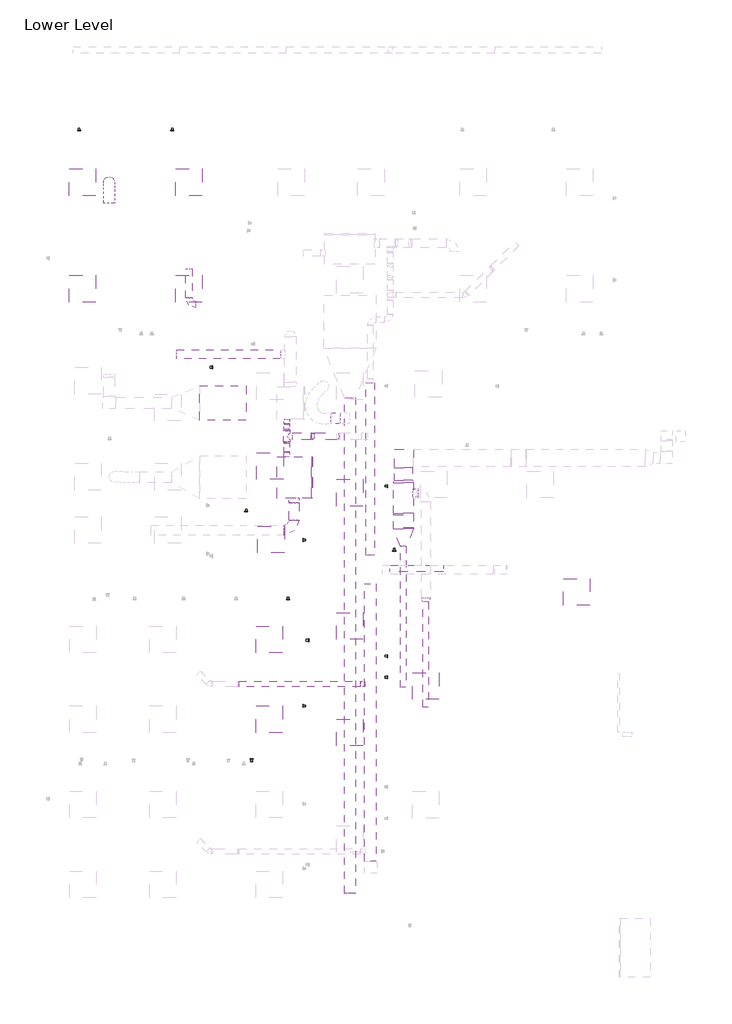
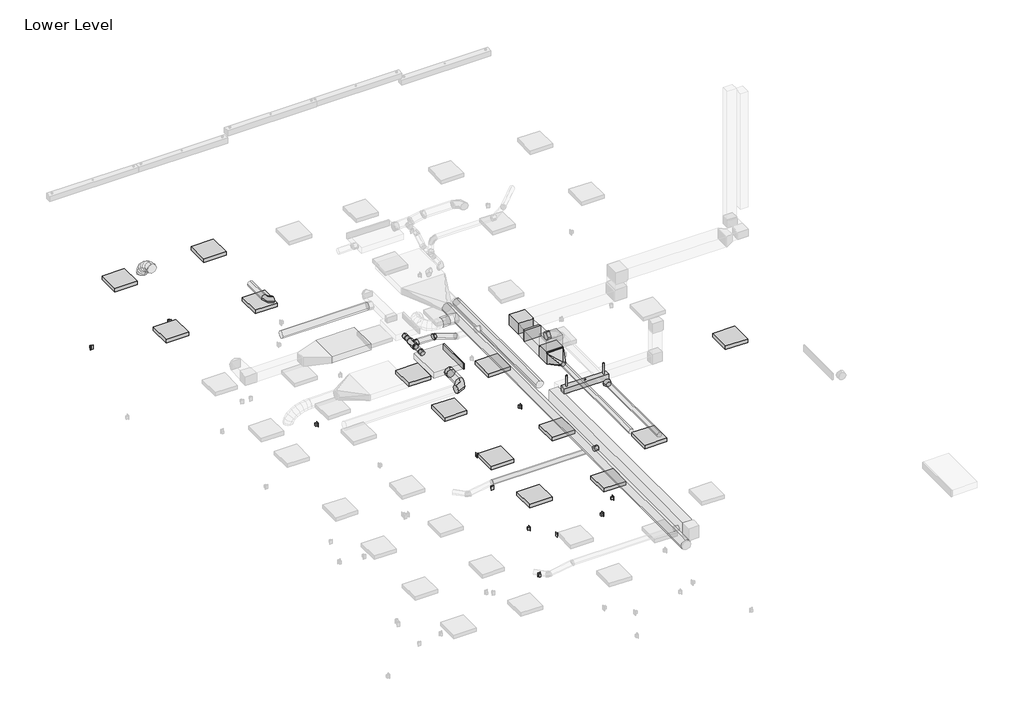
# One storey, part 2 of 4: 20 duct segments, 17 duct fittings, 14 light fixtures, 10 proxies, 5 switching devices.
"""IFC4 building model written with IfcOpenShell, lengths in millimetres."""

from ifc_helpers import new_model, si_unit, point, frame, frame_2d, origin, place, context, project, spatial, polyline, circle_curve, ellipse_curve, trimmed, segment, composite_curve, outline, extrude, transform, mapped, element, save
from ifc_brep_helpers import plane_surface, cylinder_surface, advanced_brep
from components import mechanical_equipment_142123ad, duplex_receptacle_countertop_10251bba, rectangular_elbow_mitered_standard_ae316b88, rectangular_endcap_standard_7f0f3a90, rectangular_tee_standard_c6e92247, rectangular_transition_angle_45_degree_acf68612, rectangular_to_round_transition_angle_45_degree_6a3e0b62, round_elbow_1_d_df495868, round_elbow_1_d_b37ad80b, round_elbow_1_d_f0624a5f, round_takeoff_standard_71c39a53, round_takeoff_standard_1127d77f, round_takeoff_standard_fb854549, round_takeoff_standard_7fe2b2d5, round_tee_standard_f7545f24, round_transition_angle_45_degree_f573c4f8, round_transition_angle_45_degree_d7d10bec, suspended_fluorescent_strip_non_hosted_strip_light_1x4_120v_4ea4ccb3, troffer_corner_insert_2x2_3lamp_e67c7f8f

model = new_model("IFC4")

# Units and contexts
model_context = context("Model", 3, world=origin())
ifc_project = project(units=[si_unit("LENGTHUNIT", "METRE", prefix="MILLI")], contexts=[model_context])

# Site, building, storey
site = spatial("IfcSite", under=ifc_project)
building = spatial("IfcBuilding", under=site)
storey = spatial("IfcBuildingStorey", under=building, Name="Lower Level", Elevation=29972.0)

# Proxies
placement = place(None, origin())
mechanical_equipment_shape = mechanical_equipment_142123ad(model_context)
element("IfcBuildingElementProxy", 1, Name="DOAS Supply to Return Connection : DOAS Supply to Return Duct Connection", ObjectType="DOAS Supply to Return Connection : DOAS Supply to Return Duct Connection", at=placement, inside=storey, context=model_context, shape_type="MappedRepresentation", body=[
    mapped(mechanical_equipment_shape, transform((-15051.4068388, 7766.5645797, 33121.6), x_axis=(0.0, -1.0000000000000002, 0.0), y_axis=(1.0000000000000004, 0.0, 0.0), z_axis=(0.0, 0.0, 1.0000000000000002))),
])
element("IfcBuildingElementProxy", 2, Name="DOAS Supply to Return Connection : DOAS Supply to Return Duct Connection", ObjectType="DOAS Supply to Return Connection : DOAS Supply to Return Duct Connection", at=placement, inside=storey, context=model_context, shape_type="MappedRepresentation", body=[
    mapped(mechanical_equipment_shape, transform((-15051.4068388, 7118.1842307, 33121.6), x_axis=(0.0, 1.0000000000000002, 0.0), y_axis=(-1.0000000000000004, 0.0, 0.0), z_axis=(0.0, 0.0, 1.0000000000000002))),
])
duplex_receptacle_countertop_shape = duplex_receptacle_countertop_10251bba(model_context)
element("IfcBuildingElementProxy", 3, Name="Duplex Receptacle : Countertop", ObjectType="Duplex Receptacle : Countertop", at=placement, inside=storey, context=model_context, shape_type="MappedRepresentation", body=[
    mapped(duplex_receptacle_countertop_shape, transform((-15857.9540331, 89.8945005, 31191.2), x_axis=(-1.0, 0.0, 0.0), y_axis=(0.0, 0.0, 1.0), z_axis=(0.0, 1.0, 0.0))),
])
element("IfcBuildingElementProxy", 4, Name="Duplex Receptacle : Countertop", ObjectType="Duplex Receptacle : Countertop", at=placement, inside=storey, context=model_context, shape_type="MappedRepresentation", body=[
    mapped(duplex_receptacle_countertop_shape, transform((-15020.6577304, 3747.4945005, 31191.2), x_axis=(1.0, 0.0, 0.0), y_axis=(0.0, 0.0, 1.0), z_axis=(0.0, -1.0, 0.0))),
])
element("IfcBuildingElementProxy", 5, Name="Duplex Receptacle : Standard", ObjectType="Duplex Receptacle : Standard", at=placement, inside=storey, context=model_context, shape_type="MappedRepresentation", body=[
    mapped(duplex_receptacle_countertop_shape, transform((-12749.8454607, 2449.6244898, 30429.2), x_axis=(0.0, 1.0, 0.0), y_axis=(0.0, 0.0, 1.0), z_axis=(1.0, 0.0, 0.0))),
])
element("IfcBuildingElementProxy", 6, Name="Duplex Receptacle : Standard", ObjectType="Duplex Receptacle : Standard", at=placement, inside=storey, context=model_context, shape_type="MappedRepresentation", body=[
    mapped(duplex_receptacle_countertop_shape, transform((-15979.1685758, 5760.4445005, 30429.2), x_axis=(1.0, 0.0, 0.0), y_axis=(0.0, 0.0, 1.0), z_axis=(0.0, -1.0, 0.0))),
])
element("IfcBuildingElementProxy", 7, Name="Duplex Receptacle : Standard", ObjectType="Duplex Receptacle : Standard", at=placement, inside=storey, context=model_context, shape_type="MappedRepresentation", body=[
    mapped(duplex_receptacle_countertop_shape, transform((-17673.0922604, 14482.1695005, 30429.2), x_axis=(1.0, 0.0, 0.0), y_axis=(0.0, 0.0, 1.0), z_axis=(0.0, -1.0, 0.0))),
])
element("IfcBuildingElementProxy", 8, Name="Duplex Receptacle : Standard", ObjectType="Duplex Receptacle : Standard", at=placement, inside=storey, context=model_context, shape_type="MappedRepresentation", body=[
    mapped(duplex_receptacle_countertop_shape, transform((-19809.9177955, 14482.1695005, 30429.2), x_axis=(1.0, 0.0, 0.0), y_axis=(0.0, 0.0, 1.0), z_axis=(0.0, -1.0, 0.0))),
])
element("IfcBuildingElementProxy", 9, Name="Duplex Receptacle : Standard", ObjectType="Duplex Receptacle : Standard", at=placement, inside=storey, context=model_context, shape_type="MappedRepresentation", body=[
    mapped(duplex_receptacle_countertop_shape, transform((-14550.0704607, 2812.7275334, 30429.2), x_axis=(0.0, 1.0, 0.0), y_axis=(0.0, 0.0, 1.0), z_axis=(1.0, 0.0, 0.0))),
])
element("IfcBuildingElementProxy", 10, Name="Duplex Receptacle : Standard", ObjectType="Duplex Receptacle : Standard", at=placement, inside=storey, context=model_context, shape_type="MappedRepresentation", body=[
    mapped(duplex_receptacle_countertop_shape, transform((-16756.6954607, 9061.6852176, 30429.2), x_axis=(0.0, 1.0, 0.0), y_axis=(0.0, 0.0, 1.0), z_axis=(1.0, 0.0, 0.0))),
])

# Duct fittings
rectangular_elbow_mitered_standard_shape = rectangular_elbow_mitered_standard_ae316b88(model_context)
element("IfcDuctFitting", 11, ObjectType="Rectangular Elbow - Mitered : Standard", at=placement, inside=storey, context=model_context, shape_type="MappedRepresentation", body=[
    mapped(rectangular_elbow_mitered_standard_shape, transform((-12379.8126806, 6984.6293332, 33121.6), x_axis=(-1.0, 0.0, 0.0), y_axis=(0.0, -1.0, 0.0), z_axis=(0.0, 0.0, 1.0))),
])
rectangular_endcap_standard_shape = rectangular_endcap_standard_7f0f3a90(model_context)
element("IfcDuctFitting", 12, ObjectType="Rectangular Endcap : Standard", at=placement, inside=storey, context=model_context, shape_type="MappedRepresentation", body=[
    mapped(rectangular_endcap_standard_shape, transform((-14487.4337032, 6541.2842307, 33121.5384965), x_axis=(1.0, 0.0, 0.0), y_axis=(0.0, 1.0, 0.0), z_axis=(0.0, 0.0, 1.0))),
])
rectangular_tee_standard_shape = rectangular_tee_standard_c6e92247(model_context)
element("IfcDuctFitting", 13, ObjectType="Rectangular Tee : Standard", at=placement, inside=storey, context=model_context, shape_type="MappedRepresentation", body=[
    mapped(rectangular_tee_standard_shape, transform((-12379.8126806, 5536.8293332, 33121.6), x_axis=(0.0, 1.0, 0.0), y_axis=(0.0, 0.0, -1.0), z_axis=(-1.0, 0.0, 0.0))),
])
rectangular_transition_angle_45_degree_shape = rectangular_transition_angle_45_degree_acf68612(model_context)
element("IfcDuctFitting", 14, ObjectType="Rectangular Transition - Angle : 45 Degree", at=placement, inside=storey, context=model_context, shape_type="MappedRepresentation", body=[
    mapped(rectangular_transition_angle_45_degree_shape, transform((-12379.8126806, 6479.8043332, 33121.6), x_axis=(0.0, -1.0, 0.0), y_axis=(1.0, 0.0, 0.0), z_axis=(0.0, 0.0, 1.0))),
])
rectangular_to_round_transition_angle_45_degree_shape = rectangular_to_round_transition_angle_45_degree_6a3e0b62(model_context)
element("IfcDuctFitting", 15, ObjectType="Rectangular to Round Transition - Angle : 45 Degree", at=placement, inside=storey, context=model_context, shape_type="MappedRepresentation", body=[
    mapped(rectangular_to_round_transition_angle_45_degree_shape, transform((-12379.8126806, 5359.0293332, 33121.6), x_axis=(0.0, -1.0, 0.0), y_axis=(0.0, 0.0, 1.0), z_axis=(-1.0, 0.0, 0.0))),
])
round_elbow_1_d_shape = round_elbow_1_d_df495868(model_context)
element("IfcDuctFitting", 16, ObjectType="Round Elbow : 1 D", at=placement, inside=storey, context=model_context, shape_type="MappedRepresentation", body=[
    mapped(round_elbow_1_d_shape, transform((-14881.1337028, 5334.9945005, 33121.6), x_axis=(1.0, 0.0, 0.0), y_axis=(0.0, 1.0, 0.0), z_axis=(0.0, 0.0, 1.0))),
])
round_elbow_1_d_2_shape = round_elbow_1_d_b37ad80b(model_context)
element("IfcDuctFitting", 17, ObjectType="Round Elbow : 1 D", at=placement, inside=storey, context=model_context, shape_type="MappedRepresentation", body=[
    mapped(round_elbow_1_d_2_shape, transform((-17291.6829607, 10498.3395797, 33324.8), x_axis=(0.0, -1.0, 0.0), y_axis=(0.9961916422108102, 0.0, -0.08719066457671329), z_axis=(0.08719066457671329, 0.0, 0.9961916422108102))),
])
round_elbow_1_d_3_shape = round_elbow_1_d_f0624a5f(model_context)
element("IfcDuctFitting", 18, ObjectType="Round Elbow : 1 D", at=placement, inside=storey, context=model_context, shape_type="MappedRepresentation", body=[
    mapped(round_elbow_1_d_3_shape, transform((-14469.5500833, 7481.5106674, 33121.6), x_axis=(1.0, 0.0, 0.0), y_axis=(0.0, 0.0, -1.0), z_axis=(0.0, 1.0, 0.0))),
])
round_takeoff_standard_shape = round_takeoff_standard_71c39a53(model_context)
element("IfcDuctFitting", 19, ObjectType="Round Takeoff : Standard", at=placement, inside=storey, context=model_context, shape_type="MappedRepresentation", body=[
    mapped(round_takeoff_standard_shape, transform((-14881.1337028, 6065.9842307, 33121.6), x_axis=(0.0, -1.0, 0.0), y_axis=(-1.0, 0.0, 0.0), z_axis=(0.0, 0.0, -1.0))),
])
round_takeoff_standard_2_shape = round_takeoff_standard_1127d77f(model_context)
element("IfcDuctFitting", 20, ObjectType="Round Takeoff : Standard", at=placement, inside=storey, context=model_context, shape_type="MappedRepresentation", body=[
    mapped(round_takeoff_standard_2_shape, transform((-12151.2126806, 6182.7195005, 33121.6), x_axis=(1.0, 0.0, 0.0), y_axis=(0.0, -1.0, 0.0), z_axis=(0.0, 0.0, -1.0))),
])
round_takeoff_standard_3_shape = round_takeoff_standard_fb854549(model_context)
element("IfcDuctFitting", 21, ObjectType="Round Takeoff : Standard", at=placement, inside=storey, context=model_context, shape_type="MappedRepresentation", body=[
    mapped(round_takeoff_standard_3_shape, transform((-15051.4068388, 7868.1645797, 33121.6), x_axis=(0.0, -1.0, 0.0), y_axis=(-1.0, 0.0, 0.0), z_axis=(0.0, 0.0, -1.0))),
])
round_takeoff_standard_4_shape = round_takeoff_standard_7fe2b2d5(model_context)
element("IfcDuctFitting", 22, ObjectType="Round Takeoff : Standard", at=placement, inside=storey, context=model_context, shape_type="MappedRepresentation", body=[
    mapped(round_takeoff_standard_4_shape, transform((-15051.4068388, 7016.5842307, 33121.6), x_axis=(0.0, 1.0, 0.0), y_axis=(1.0, 0.0, 0.0), z_axis=(0.0, 0.0, -1.0))),
])
element("IfcDuctFitting", 23, ObjectType="Round Takeoff : Standard", at=placement, inside=storey, context=model_context, shape_type="MappedRepresentation", body=[
    mapped(round_takeoff_standard_4_shape, transform((-13265.544811, 1810.3913908, 32918.4), x_axis=(-1.0, 0.0, 0.0), y_axis=(0.0, 1.0, 0.0), z_axis=(0.0, 0.0, -1.0))),
])
round_tee_standard_shape = round_tee_standard_f7545f24(model_context)
element("IfcDuctFitting", 24, ObjectType="Round Tee : Standard", at=placement, inside=storey, context=model_context, shape_type="MappedRepresentation", body=[
    mapped(round_tee_standard_shape, transform((-15051.4068388, 7481.5106674, 33121.6), x_axis=(0.0, 1.0, 0.0), y_axis=(-1.0, 0.0, 0.0), z_axis=(0.0, 0.0, 1.0))),
])
round_transition_angle_45_degree_shape = round_transition_angle_45_degree_f573c4f8(model_context)
element("IfcDuctFitting", 25, ObjectType="Round Transition - Angle : 45 Degree", at=placement, inside=storey, context=model_context, shape_type="MappedRepresentation", body=[
    mapped(round_transition_angle_45_degree_shape, transform((-15051.4068388, 7608.5106674, 33121.6), x_axis=(0.0, 1.0, 0.0), y_axis=(-1.0, 0.0, 0.0), z_axis=(0.0, 0.0, 1.0))),
])
element("IfcDuctFitting", 26, ObjectType="Round Transition - Angle : 45 Degree", at=placement, inside=storey, context=model_context, shape_type="MappedRepresentation", body=[
    mapped(round_transition_angle_45_degree_shape, transform((-15051.4068388, 7354.5106674, 33121.6), x_axis=(0.0, -1.0, 0.0), y_axis=(1.0, 0.0, 0.0), z_axis=(0.0, 0.0, 1.0))),
])
round_transition_angle_45_degree_2_shape = round_transition_angle_45_degree_d7d10bec(model_context)
element("IfcDuctFitting", 27, ObjectType="Round Transition - Angle : 45 Degree", at=placement, inside=storey, context=model_context, shape_type="MappedRepresentation", body=[
    mapped(round_transition_angle_45_degree_2_shape, transform((-11866.4513201, 3785.5010372, 33121.6), x_axis=(0.0, -1.0, 0.0), y_axis=(1.0, 0.0, 0.0), z_axis=(0.0, 0.0, 1.0))),
])

# Duct segments
element("IfcDuctSegment", 28, ObjectType="Flex - Round", at=placement, inside=storey, context=model_context, shape_type="AdvancedBrep", body=[
    advanced_brep(
    [(-19247.4829607, 12815.4520797, 33477.2), (-19120.4829607, 12815.4520797, 33350.2), (-18993.4829607, 12815.4520797, 33477.2), (-19120.4829607, 12815.4520797, 33604.2), (-19247.4829607, 12833.3470873, 33477.2), (-19120.4829607, 12822.5920667, 33350.2), (-18993.4829607, 12833.3470873, 33477.2), (-19120.4829607, 12844.102108, 33604.2), (-19247.4829607, 13294.7195005, 33073.975), (-19120.4829607, 13421.7195005, 33073.975), (-18993.4829607, 13294.7195005, 33073.975), (-19120.4829607, 13167.7195005, 33073.975), (-19247.4829607, 12923.4451197, 33461.8298314), (-19120.4829607, 12889.2212464, 33338.8334729), (-18993.4829607, 12923.4451197, 33461.8298314), (-19120.4829607, 12957.6689931, 33584.8261899), (-19247.4829607, 13032.4960357, 33419.0549049), (-19120.4829607, 12974.2697967, 33305.4734094), (-18993.4829607, 13032.4960357, 33419.0549049), (-19120.4829607, 13090.7222748, 33532.6364005), (-19247.4829607, 13133.3768797, 33353.8785896), (-19120.4829607, 13053.4146346, 33254.3401247), (-18993.4829607, 13133.3768797, 33353.8785896), (-19120.4829607, 13213.3391248, 33453.4170545), (-19247.4829607, 13216.8597038, 33271.3042543), (-19120.4829607, 13116.1392002, 33192.2981494), (-18993.4829607, 13216.8597038, 33271.3042543), (-19120.4829607, 13317.5802073, 33350.3103593), (-19247.4829607, 13273.71656, 33176.3352681), (-19120.4829607, 13155.8042904, 33126.0448661), (-18993.4829607, 13273.71656, 33176.3352681), (-19120.4829607, 13391.6288296, 33226.6256702), (-19247.4829607, 13294.7195005, 33099.5018603), (-19120.4829607, 13167.7195005, 33082.4563888), (-18993.4829607, 13294.7195005, 33099.5018603), (-19120.4829607, 13421.7195005, 33116.5473318)],
    [
        (0, 1, circle_curve(frame((-19120.4829607, 12815.4520797, 33477.2), z_axis=(0.0, -1.0, 0.0), x_axis=(-1.0, 0.0, 0.0)), 127.0)),
        (1, 2, circle_curve(frame((-19120.4829607, 12815.4520797, 33477.2), z_axis=(0.0, -1.0, 0.0), x_axis=(-1.0, 0.0, 0.0)), 127.0)),
        (2, 3, circle_curve(frame((-19120.4829607, 12815.4520797, 33477.2), z_axis=(0.0, -1.0, 0.0), x_axis=(-1.0, 0.0, 0.0)), 127.0)),
        (3, 0, circle_curve(frame((-19120.4829607, 12815.4520797, 33477.2), z_axis=(0.0, -1.0, 0.0), x_axis=(-1.0, 0.0, 0.0)), 127.0)),
        (0, 4),
        (4, 5, ellipse_curve(frame((-19120.4829607, 12833.3470873, 33477.2), z_axis=(0.0, -0.996433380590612, 0.08438316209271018), x_axis=(0.0, -0.08438316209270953, -0.996433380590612)), 127.454582, 127.0)),
        (5, 1),
        (5, 6, ellipse_curve(frame((-19120.4829607, 12833.3470873, 33477.2), z_axis=(0.0, -0.996433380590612, 0.08438316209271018), x_axis=(0.0, -0.08438316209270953, -0.996433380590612)), 127.454582, 127.0)),
        (6, 2),
        (6, 7, ellipse_curve(frame((-19120.4829607, 12833.3470873, 33477.2), z_axis=(0.0, -0.996433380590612, 0.08438316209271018), x_axis=(0.0, -0.08438316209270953, -0.996433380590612)), 127.454582, 127.0)),
        (7, 3),
        (7, 4, ellipse_curve(frame((-19120.4829607, 12833.3470873, 33477.2), z_axis=(0.0, -0.996433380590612, 0.08438316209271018), x_axis=(0.0, -0.08438316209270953, -0.996433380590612)), 127.454582, 127.0)),
        (8, 9, circle_curve(frame((-19120.4829607, 13294.7195005, 33073.975), z_axis=(0.0, 0.0, -1.0), x_axis=(-1.0, 0.0, 0.0)), 127.0)),
        (9, 10, circle_curve(frame((-19120.4829607, 13294.7195005, 33073.975), z_axis=(0.0, 0.0, -1.0), x_axis=(-1.0, 0.0, 0.0)), 127.0)),
        (10, 11, circle_curve(frame((-19120.4829607, 13294.7195005, 33073.975), z_axis=(0.0, 0.0, -1.0), x_axis=(-1.0, 0.0, 0.0)), 127.0)),
        (11, 8, circle_curve(frame((-19120.4829607, 13294.7195005, 33073.975), z_axis=(0.0, 0.0, -1.0), x_axis=(-1.0, 0.0, 0.0)), 127.0)),
        (4, 12),
        (12, 13, ellipse_curve(frame((-19120.4829607, 12923.4451197, 33461.8298314), z_axis=(0.0, -0.963400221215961, 0.2680671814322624), x_axis=(0.0, -0.2680671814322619, -0.9634002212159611)), 127.6690162, 127.0)),
        (13, 5),
        (13, 14, ellipse_curve(frame((-19120.4829607, 12923.4451197, 33461.8298314), z_axis=(0.0, -0.963400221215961, 0.2680671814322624), x_axis=(0.0, -0.2680671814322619, -0.9634002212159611)), 127.6690162, 127.0)),
        (14, 6),
        (14, 15, ellipse_curve(frame((-19120.4829607, 12923.4451197, 33461.8298314), z_axis=(0.0, -0.963400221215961, 0.2680671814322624), x_axis=(0.0, -0.2680671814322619, -0.9634002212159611)), 127.6690162, 127.0)),
        (15, 7),
        (15, 12, ellipse_curve(frame((-19120.4829607, 12923.4451197, 33461.8298314), z_axis=(0.0, -0.963400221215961, 0.2680671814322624), x_axis=(0.0, -0.2680671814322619, -0.9634002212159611)), 127.6690162, 127.0)),
        (12, 16),
        (16, 17, ellipse_curve(frame((-19120.4829607, 13032.4960357, 33419.0549049), z_axis=(0.0, -0.8898832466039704, 0.45618834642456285), x_axis=(0.0, -0.4561883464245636, -0.8898832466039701)), 127.6364017, 127.0)),
        (17, 13),
        (17, 18, ellipse_curve(frame((-19120.4829607, 13032.4960357, 33419.0549049), z_axis=(0.0, -0.8898832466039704, 0.45618834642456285), x_axis=(0.0, -0.4561883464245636, -0.8898832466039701)), 127.6364017, 127.0)),
        (18, 14),
        (18, 19, ellipse_curve(frame((-19120.4829607, 13032.4960357, 33419.0549049), z_axis=(0.0, -0.8898832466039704, 0.45618834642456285), x_axis=(0.0, -0.4561883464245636, -0.8898832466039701)), 127.6364017, 127.0)),
        (19, 15),
        (19, 16, ellipse_curve(frame((-19120.4829607, 13032.4960357, 33419.0549049), z_axis=(0.0, -0.8898832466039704, 0.45618834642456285), x_axis=(0.0, -0.4561883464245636, -0.8898832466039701)), 127.6364017, 127.0)),
        (16, 20),
        (20, 21, ellipse_curve(frame((-19120.4829607, 13133.3768797, 33353.8785896), z_axis=(0.0, -0.7796007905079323, 0.6262767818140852), x_axis=(0.0, -0.6262767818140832, -0.7796007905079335)), 127.6787634, 127.0)),
        (21, 17),
        (21, 22, ellipse_curve(frame((-19120.4829607, 13133.3768797, 33353.8785896), z_axis=(0.0, -0.7796007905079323, 0.6262767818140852), x_axis=(0.0, -0.6262767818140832, -0.7796007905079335)), 127.6787634, 127.0)),
        (22, 18),
        (22, 23, ellipse_curve(frame((-19120.4829607, 13133.3768797, 33353.8785896), z_axis=(0.0, -0.7796007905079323, 0.6262767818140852), x_axis=(0.0, -0.6262767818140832, -0.7796007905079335)), 127.6787634, 127.0)),
        (23, 19),
        (23, 20, ellipse_curve(frame((-19120.4829607, 13133.3768797, 33353.8785896), z_axis=(0.0, -0.7796007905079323, 0.6262767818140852), x_axis=(0.0, -0.6262767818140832, -0.7796007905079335)), 127.6787634, 127.0)),
        (20, 24),
        (24, 25, ellipse_curve(frame((-19120.4829607, 13216.8597038, 33271.3042543), z_axis=(0.0, -0.6171865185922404, 0.7868168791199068), x_axis=(0.0, -0.786816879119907, -0.6171865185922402)), 128.0100951, 127.0)),
        (25, 21),
        (25, 26, ellipse_curve(frame((-19120.4829607, 13216.8597038, 33271.3042543), z_axis=(0.0, -0.6171865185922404, 0.7868168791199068), x_axis=(0.0, -0.786816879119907, -0.6171865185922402)), 128.0100951, 127.0)),
        (26, 22),
        (26, 27, ellipse_curve(frame((-19120.4829607, 13216.8597038, 33271.3042543), z_axis=(0.0, -0.6171865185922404, 0.7868168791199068), x_axis=(0.0, -0.786816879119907, -0.6171865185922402)), 128.0100951, 127.0)),
        (27, 23),
        (27, 24, ellipse_curve(frame((-19120.4829607, 13216.8597038, 33271.3042543), z_axis=(0.0, -0.6171865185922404, 0.7868168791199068), x_axis=(0.0, -0.786816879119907, -0.6171865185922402)), 128.0100951, 127.0)),
        (24, 28),
        (28, 29, ellipse_curve(frame((-19120.4829607, 13273.71656, 33176.3352681), z_axis=(0.0, -0.39231439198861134, 0.9198311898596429), x_axis=(0.0, -0.9198311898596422, -0.3923143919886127)), 128.1890317, 127.0)),
        (29, 25),
        (29, 30, ellipse_curve(frame((-19120.4829607, 13273.71656, 33176.3352681), z_axis=(0.0, -0.39231439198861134, 0.9198311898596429), x_axis=(0.0, -0.9198311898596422, -0.3923143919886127)), 128.1890317, 127.0)),
        (30, 26),
        (30, 31, ellipse_curve(frame((-19120.4829607, 13273.71656, 33176.3352681), z_axis=(0.0, -0.39231439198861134, 0.9198311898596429), x_axis=(0.0, -0.9198311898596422, -0.3923143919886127)), 128.1890317, 127.0)),
        (31, 27),
        (31, 28, ellipse_curve(frame((-19120.4829607, 13273.71656, 33176.3352681), z_axis=(0.0, -0.39231439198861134, 0.9198311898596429), x_axis=(0.0, -0.9198311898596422, -0.3923143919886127)), 128.1890317, 127.0)),
        (28, 32),
        (32, 33, ellipse_curve(frame((-19120.4829607, 13294.7195005, 33099.5018603), z_axis=(0.0, -0.13302351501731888, 0.99111288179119), x_axis=(0.0, -0.9911128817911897, -0.13302351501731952)), 128.1387845, 127.0)),
        (33, 29),
        (33, 34, ellipse_curve(frame((-19120.4829607, 13294.7195005, 33099.5018603), z_axis=(0.0, -0.13302351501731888, 0.99111288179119), x_axis=(0.0, -0.9911128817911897, -0.13302351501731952)), 128.1387845, 127.0)),
        (34, 30),
        (34, 35, ellipse_curve(frame((-19120.4829607, 13294.7195005, 33099.5018603), z_axis=(0.0, -0.13302351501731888, 0.99111288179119), x_axis=(0.0, -0.9911128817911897, -0.13302351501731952)), 128.1387845, 127.0)),
        (35, 31),
        (35, 32, ellipse_curve(frame((-19120.4829607, 13294.7195005, 33099.5018603), z_axis=(0.0, -0.13302351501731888, 0.99111288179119), x_axis=(0.0, -0.9911128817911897, -0.13302351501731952)), 128.1387845, 127.0)),
        (32, 8),
        (11, 33),
        (10, 34),
        (9, 35),
    ],
    [
        plane_surface(frame((-19247.4829607, 12815.4520797, 33477.2), z_axis=(0.0, -1.0, 0.0), x_axis=(0.0, 0.0, 1.0))),
        cylinder_surface(frame((-19120.4829607, 12815.4520797, 33477.2), z_axis=(0.0, -1.0, 0.0), x_axis=(-1.0, 0.0, 0.0)), 127.0),
        plane_surface(frame((-19120.4829607, 13167.7195005, 33073.975), z_axis=(0.0, 0.0, -1.0), x_axis=(-1.0, 0.0, 0.0))),
        cylinder_surface(frame((-19120.4829607, 12833.3470873, 33477.2), z_axis=(0.0, -0.9857589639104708, 0.16816439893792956), x_axis=(-1.0, 0.0, 0.0)), 127.0),
        cylinder_surface(frame((-19120.4829607, 12923.4451197, 33461.8298314), z_axis=(0.0, -0.9309445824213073, 0.3651604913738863), x_axis=(-1.0, 0.0, 0.0)), 127.0),
        cylinder_surface(frame((-19120.4829607, 13032.4960357, 33419.0549049), z_axis=(0.0, -0.83994790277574, 0.542667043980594), x_axis=(-1.0, 0.0, 0.0)), 127.0),
        cylinder_surface(frame((-19120.4829607, 13133.3768797, 33353.8785896), z_axis=(0.0, -0.7109646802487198, 0.7032277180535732), x_axis=(-1.0, 0.0, 0.0)), 127.0),
        cylinder_surface(frame((-19120.4829607, 13216.8597038, 33271.3042543), z_axis=(0.0, -0.5136682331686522, 0.8579888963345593), x_axis=(-1.0, 0.0, 0.0)), 127.0),
        cylinder_surface(frame((-19120.4829607, 13273.71656, 33176.3352681), z_axis=(0.0, -0.2636826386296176, 0.9646094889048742), x_axis=(-1.0, 0.0, 0.0)), 127.0),
        cylinder_surface(frame((-19120.4829607, 13294.7195005, 33099.5018603), z_axis=(0.0, 0.0, 1.0), x_axis=(-1.0, 0.0, 0.0)), 127.0),
    ],
    [
        (0, [[1, 2, 3, 4]]),
        (1, [[-1, 5, 6, 7]]),
        (1, [[-2, -7, 8, 9]]),
        (1, [[-3, -9, 10, 11]]),
        (1, [[-4, -11, 12, -5]]),
        (2, [[13, 14, 15, 16]]),
        (3, [[-6, 17, 18, 19]]),
        (3, [[-8, -19, 20, 21]]),
        (3, [[-10, -21, 22, 23]]),
        (3, [[-12, -23, 24, -17]]),
        (4, [[-18, 25, 26, 27]]),
        (4, [[-20, -27, 28, 29]]),
        (4, [[-22, -29, 30, 31]]),
        (4, [[-24, -31, 32, -25]]),
        (5, [[-26, 33, 34, 35]]),
        (5, [[-28, -35, 36, 37]]),
        (5, [[-30, -37, 38, 39]]),
        (5, [[-32, -39, 40, -33]]),
        (6, [[-34, 41, 42, 43]]),
        (6, [[-36, -43, 44, 45]]),
        (6, [[-38, -45, 46, 47]]),
        (6, [[-40, -47, 48, -41]]),
        (7, [[-42, 49, 50, 51]]),
        (7, [[-44, -51, 52, 53]]),
        (7, [[-46, -53, 54, 55]]),
        (7, [[-48, -55, 56, -49]]),
        (8, [[-50, 57, 58, 59]]),
        (8, [[-52, -59, 60, 61]]),
        (8, [[-54, -61, 62, 63]]),
        (8, [[-56, -63, 64, -57]]),
        (9, [[-58, 65, -16, 66]]),
        (9, [[-60, -66, -15, 67]]),
        (9, [[-62, -67, -14, 68]]),
        (9, [[-64, -68, -13, -65]]),
    ],
),
])
element("IfcDuctSegment", 29, ObjectType="Mitered Elbows / Taps", at=placement, inside=storey, context=model_context, shape_type="SweptSolid", body=[
    extrude(outline(polyline([(0.0, -790.575), (0.0, 0.0), (1059.15555, 0.0), (1059.15555, -790.575), (0.0, -790.575)])), frame((-17043.5783571, 8638.7395797, 33041.465625), z_axis=(-2.8398213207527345e-05, 0.0, 0.9999999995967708), x_axis=(0.9999999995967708, 0.0, 2.8398213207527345e-05)), (0.0, 0.0, 1.0), 169.0),
])
element("IfcDuctSegment", 30, ObjectType="Mitered Elbows / Taps", at=placement, inside=storey, context=model_context, shape_type="SweptSolid", body=[
    extrude(outline(polyline([(-14487.4337032, 7016.5842307), (-14487.4337032, 6065.9842307), (-15274.8337025, 6065.9842307), (-15274.8337025, 7016.5842307), (-14487.4337032, 7016.5842307)])), frame((0.0, 0.0, 33041.6177934), z_axis=(0.0, 0.0, 1.0), x_axis=(1.0, 0.0, 0.0)), (0.0, 0.0, 1.0), 159.8414063),
])
element("IfcDuctSegment", 31, ObjectType="Mitered Elbows / Taps", at=placement, inside=storey, context=model_context, shape_type="SweptSolid", body=[
    extrude(outline(polyline([(-12176.6126806, 6479.8043332), (-12583.0126806, 6479.8043332), (-12583.0126806, 6756.0293332), (-12176.6126806, 6756.0293332), (-12176.6126806, 6479.8043332)])), frame((0.0, 0.0, 32969.2), z_axis=(0.0, 0.0, 1.0), x_axis=(1.0, 0.0, 0.0)), (0.0, 0.0, 1.0), 304.8),
])
element("IfcDuctSegment", 32, ObjectType="Mitered Elbows / Taps", at=placement, inside=storey, context=model_context, shape_type="SweptSolid", body=[
    extrude(outline(polyline([(-12151.2126806, 5714.6293332), (-12608.4126806, 5714.6293332), (-12608.4126806, 6418.4833087), (-12151.2126806, 6418.4833087), (-12151.2126806, 5714.6293332)])), frame((0.0, 0.0, 32969.2), z_axis=(0.0, 0.0, 1.0), x_axis=(1.0, 0.0, 0.0)), (0.0, 0.0, 1.0), 304.8),
])
element("IfcDuctSegment", 33, ObjectType="Mitered Elbows / Taps", at=placement, inside=storey, context=model_context, shape_type="SweptSolid", body=[
    extrude(outline(polyline([(-13265.544811, 4099.9195005), (-13011.544811, 4099.9195005), (-13011.544811, -2246.9054995), (-13265.544811, -2246.9054995), (-13265.544811, 4099.9195005)])), frame((0.0, 0.0, 32842.2), z_axis=(0.0, 0.0, 1.0), x_axis=(1.0, 0.0, 0.0)), (0.0, 0.0, 1.0), 355.6),
])
element("IfcDuctSegment", 34, ObjectType="Mitered Elbows / Taps", at=placement, inside=storey, context=model_context, shape_type="SweptSolid", body=[
    extrude(outline(polyline([(-12151.2126806, 5384.4293332), (-12608.4126806, 5384.4293332), (-12608.4126806, 5689.2293332), (-12151.2126806, 5689.2293332), (-12151.2126806, 5384.4293332)])), frame((0.0, 0.0, 33299.4), z_axis=(0.0, 0.0, 1.0), x_axis=(1.0, 0.0, 0.0)), (0.0, 0.0, 1.0), 330.2),
])
element("IfcDuctSegment", 35, ObjectType="Taps / Short Radius", at=placement, inside=storey, context=model_context, shape_type="SweptSolid", body=[
    extrude(outline(composite_curve([segment(trimmed(circle_curve(frame_2d((33121.6, -14881.1337028)), 114.3), [point((33121.6, -14995.4337028))], [point((33007.3, -14881.1337028))], False, "CARTESIAN"), True, "CONTINUOUS"), segment(trimmed(circle_curve(frame_2d((33121.6, -14881.1337028)), 114.3), [point((33007.3, -14881.1337028))], [point((33121.6, -14766.8337028))], False, "CARTESIAN"), True, "CONTINUOUS"), segment(trimmed(circle_curve(frame_2d((33121.6, -14881.1337028)), 114.3), [point((33121.6, -14766.8337028))], [point((33235.9, -14881.1337028))], False, "CARTESIAN"), True, "CONTINUOUS"), segment(trimmed(circle_curve(frame_2d((33121.6, -14881.1337028)), 114.3), [point((33235.9, -14881.1337028))], [point((33121.6, -14995.4337028))], False, "CARTESIAN"), True, "CONTINUOUS")], self_intersect=False)), frame((0.0, 5563.5945005, 0.0), z_axis=(0.0, 1.0, 0.0), x_axis=(0.0, 0.0, 1.0)), (0.0, 0.0, 1.0), 400.7897302),
])
element("IfcDuctSegment", 36, ObjectType="Taps / Short Radius", at=placement, inside=storey, context=model_context, shape_type="SweptSolid", body=[
    extrude(outline(composite_curve([segment(trimmed(circle_curve(frame_2d((32918.4, -13138.544811)), 101.6), [point((32918.4, -13240.144811))], [point((32816.8, -13138.544811))], False, "CARTESIAN"), True, "CONTINUOUS"), segment(trimmed(circle_curve(frame_2d((32918.4, -13138.544811)), 101.6), [point((32816.8, -13138.544811))], [point((32918.4, -13036.944811))], False, "CARTESIAN"), True, "CONTINUOUS"), segment(trimmed(circle_curve(frame_2d((32918.4, -13138.544811)), 101.6), [point((32918.4, -13036.944811))], [point((33020.0, -13138.544811))], False, "CARTESIAN"), True, "CONTINUOUS"), segment(trimmed(circle_curve(frame_2d((32918.4, -13138.544811)), 101.6), [point((33020.0, -13138.544811))], [point((32918.4, -13240.144811))], False, "CARTESIAN"), True, "CONTINUOUS")], self_intersect=False)), frame((0.0, 4760.3195005, 0.0), z_axis=(0.0, 1.0, 0.0), x_axis=(0.0, 0.0, 1.0)), (0.0, 0.0, 1.0), 3949.3928002),
])
element("IfcDuctSegment", 37, ObjectType="Taps / Short Radius", at=placement, inside=storey, context=model_context, shape_type="SweptSolid", body=[
    extrude(outline(composite_curve([segment(trimmed(circle_curve(frame_2d((9360.8945005, 33121.6)), 101.6), [point((9259.2945005, 33121.6))], [point((9360.8945005, 33223.2))], False, "CARTESIAN"), True, "CONTINUOUS"), segment(trimmed(circle_curve(frame_2d((9360.8945005, 33121.6)), 101.6), [point((9360.8945005, 33223.2))], [point((9462.4945005, 33121.6))], False, "CARTESIAN"), True, "CONTINUOUS"), segment(trimmed(circle_curve(frame_2d((9360.8945005, 33121.6)), 101.6), [point((9462.4945005, 33121.6))], [point((9360.8945005, 33020.0))], False, "CARTESIAN"), True, "CONTINUOUS"), segment(trimmed(circle_curve(frame_2d((9360.8945005, 33121.6)), 101.6), [point((9360.8945005, 33020.0))], [point((9259.2945005, 33121.6))], False, "CARTESIAN"), True, "CONTINUOUS")], self_intersect=False)), frame((-17572.6704607, 0.0, 0.0), z_axis=(1.0, 0.0, 0.0), x_axis=(0.0, 1.0, 0.0)), (0.0, 0.0, 1.0), 2374.0367578),
])
element("IfcDuctSegment", 38, ObjectType="Taps / Short Radius", at=placement, inside=storey, context=model_context, shape_type="SweptSolid", body=[
    extrude(outline(composite_curve([segment(trimmed(circle_curve(frame_2d((33324.8, -17291.6829607)), 76.2), [point((33324.8, -17215.4829607))], [point((33401.0, -17291.6829607))], False, "CARTESIAN"), True, "CONTINUOUS"), segment(trimmed(circle_curve(frame_2d((33324.8, -17291.6829607)), 76.2), [point((33401.0, -17291.6829607))], [point((33324.8, -17367.8829607))], False, "CARTESIAN"), True, "CONTINUOUS"), segment(trimmed(circle_curve(frame_2d((33324.8, -17291.6829607)), 76.2), [point((33324.8, -17367.8829607))], [point((33248.6, -17291.6829607))], False, "CARTESIAN"), True, "CONTINUOUS"), segment(trimmed(circle_curve(frame_2d((33324.8, -17291.6829607)), 76.2), [point((33248.6, -17291.6829607))], [point((33324.8, -17215.4829607))], False, "CARTESIAN"), True, "CONTINUOUS")], self_intersect=False)), frame((0.0, 10650.7395797, 0.0), z_axis=(0.0, 1.0, 0.0), x_axis=(0.0, 0.0, 1.0)), (0.0, 0.0, 1.0), 662.7799208),
])
element("IfcDuctSegment", 39, ObjectType="Taps / Short Radius", at=placement, inside=storey, context=model_context, shape_type="SweptSolid", body=[
    extrude(outline(composite_curve([segment(trimmed(circle_curve(frame_2d((7890.6991771, 33125.8664063)), 127.0), [point((8017.6991771, 33125.8664063))], [point((7890.6991771, 32998.8664063))], False, "CARTESIAN"), True, "CONTINUOUS"), segment(trimmed(circle_curve(frame_2d((7890.6991771, 33125.8664063)), 127.0), [point((7890.6991771, 32998.8664063))], [point((7763.6991771, 33125.8664063))], False, "CARTESIAN"), True, "CONTINUOUS"), segment(trimmed(circle_curve(frame_2d((7890.6991771, 33125.8664063)), 127.0), [point((7763.6991771, 33125.8664063))], [point((7890.6991771, 33252.8664063))], False, "CARTESIAN"), True, "CONTINUOUS"), segment(trimmed(circle_curve(frame_2d((7890.6991771, 33125.8664063)), 127.0), [point((7890.6991771, 33252.8664063))], [point((8017.6991771, 33125.8664063))], False, "CARTESIAN"), True, "CONTINUOUS")], self_intersect=False)), frame((-14037.3079605, 0.0, 0.0), z_axis=(1.0, 0.0, 0.0), x_axis=(0.0, 1.0, 0.0)), (0.0, 0.0, 1.0), 203.2000002),
])
element("IfcDuctSegment", 40, ObjectType="Taps / Short Radius", at=placement, inside=storey, context=model_context, shape_type="SweptSolid", body=[
    extrude(outline(composite_curve([segment(trimmed(circle_curve(frame_2d((33121.6, -15051.4068388)), 63.5), [point((33121.6, -14987.9068388))], [point((33185.1, -15051.4068388))], False, "CARTESIAN"), True, "CONTINUOUS"), segment(trimmed(circle_curve(frame_2d((33121.6, -15051.4068388)), 63.5), [point((33185.1, -15051.4068388))], [point((33121.6, -15114.9068388))], False, "CARTESIAN"), True, "CONTINUOUS"), segment(trimmed(circle_curve(frame_2d((33121.6, -15051.4068388)), 63.5), [point((33121.6, -15114.9068388))], [point((33058.1, -15051.4068388))], False, "CARTESIAN"), True, "CONTINUOUS"), segment(trimmed(circle_curve(frame_2d((33121.6, -15051.4068388)), 63.5), [point((33058.1, -15051.4068388))], [point((33121.6, -14987.9068388))], False, "CARTESIAN"), True, "CONTINUOUS")], self_intersect=False)), frame((0.0, 7639.1711796, 0.0), z_axis=(0.0, 1.0, 0.0), x_axis=(0.0, 0.0, 1.0)), (0.0, 0.0, 1.0), 114.6934001),
])
element("IfcDuctSegment", 41, ObjectType="Taps / Short Radius", at=placement, inside=storey, context=model_context, shape_type="SweptSolid", body=[
    extrude(outline(composite_curve([segment(trimmed(circle_curve(frame_2d((33121.6, -15051.4068388)), 63.5), [point((33121.6, -15114.9068388))], [point((33058.1, -15051.4068388))], False, "CARTESIAN"), True, "CONTINUOUS"), segment(trimmed(circle_curve(frame_2d((33121.6, -15051.4068388)), 63.5), [point((33058.1, -15051.4068388))], [point((33121.6, -14987.9068388))], False, "CARTESIAN"), True, "CONTINUOUS"), segment(trimmed(circle_curve(frame_2d((33121.6, -15051.4068388)), 63.5), [point((33121.6, -14987.9068388))], [point((33185.1, -15051.4068388))], False, "CARTESIAN"), True, "CONTINUOUS"), segment(trimmed(circle_curve(frame_2d((33121.6, -15051.4068388)), 63.5), [point((33185.1, -15051.4068388))], [point((33121.6, -15114.9068388))], False, "CARTESIAN"), True, "CONTINUOUS")], self_intersect=False)), frame((0.0, 7130.8842307, 0.0), z_axis=(0.0, 1.0, 0.0), x_axis=(0.0, 0.0, 1.0)), (0.0, 0.0, 1.0), 192.9659244),
])
element("IfcDuctSegment", 42, ObjectType="Taps / Short Radius", at=placement, inside=storey, context=model_context, shape_type="SweptSolid", body=[
    extrude(outline(composite_curve([segment(trimmed(circle_curve(frame_2d((7481.5106674, 33121.6)), 76.2), [point((7405.3106674, 33121.6))], [point((7481.5106674, 33197.8))], False, "CARTESIAN"), True, "CONTINUOUS"), segment(trimmed(circle_curve(frame_2d((7481.5106674, 33121.6)), 76.2), [point((7481.5106674, 33197.8))], [point((7557.7106674, 33121.6))], False, "CARTESIAN"), True, "CONTINUOUS"), segment(trimmed(circle_curve(frame_2d((7481.5106674, 33121.6)), 76.2), [point((7557.7106674, 33121.6))], [point((7481.5106674, 33045.4))], False, "CARTESIAN"), True, "CONTINUOUS"), segment(trimmed(circle_curve(frame_2d((7481.5106674, 33121.6)), 76.2), [point((7481.5106674, 33045.4))], [point((7405.3106674, 33121.6))], False, "CARTESIAN"), True, "CONTINUOUS")], self_intersect=False)), frame((-14924.4068388, 0.0, 0.0), z_axis=(1.0, 0.0, 0.0), x_axis=(0.0, 1.0, 0.0)), (0.0, 0.0, 1.0), 430.2046654),
])
element("IfcDuctSegment", 43, ObjectType="Taps / Short Radius", at=placement, inside=storey, context=model_context, shape_type="SweptSolid", body=[
    extrude(outline(composite_curve([segment(trimmed(circle_curve(frame_2d((0.0, -76.2)), 76.2), [point((0.0, -152.4))], [point((-76.1999999, -76.2))], False, "CARTESIAN"), True, "CONTINUOUS"), segment(trimmed(circle_curve(frame_2d((0.0, -76.2)), 76.2), [point((-76.1999999, -76.2))], [point((0.0, 0.0))], False, "CARTESIAN"), True, "CONTINUOUS"), segment(trimmed(circle_curve(frame_2d((0.0, -76.2)), 76.2), [point((0.0, 0.0))], [point((76.2, -76.2))], False, "CARTESIAN"), True, "CONTINUOUS"), segment(trimmed(circle_curve(frame_2d((0.0, -76.2)), 76.2), [point((76.2, -76.2))], [point((0.0, -152.4))], False, "CARTESIAN"), True, "CONTINUOUS")], self_intersect=False)), frame((-13881.2852918, 7557.7106674, 32926.1720376), z_axis=(-0.9490023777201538, 0.0, 0.3152689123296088), x_axis=(0.3152689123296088, 0.0, 0.9490023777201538)), (0.0, 0.0, 1.0), 595.2249568),
])
element("IfcDuctSegment", 44, ObjectType="Taps / Short Radius", at=placement, inside=storey, context=model_context, shape_type="SweptSolid", body=[
    extrude(outline(composite_curve([segment(trimmed(circle_curve(frame_2d((33121.6, -11866.4513201)), 63.5), [point((33121.6, -11802.9513201))], [point((33185.1, -11866.4513201))], False, "CARTESIAN"), True, "CONTINUOUS"), segment(trimmed(circle_curve(frame_2d((33121.6, -11866.4513201)), 63.5), [point((33185.1, -11866.4513201))], [point((33121.6, -11929.9513201))], False, "CARTESIAN"), True, "CONTINUOUS"), segment(trimmed(circle_curve(frame_2d((33121.6, -11866.4513201)), 63.5), [point((33121.6, -11929.9513201))], [point((33058.1, -11866.4513201))], False, "CARTESIAN"), True, "CONTINUOUS"), segment(trimmed(circle_curve(frame_2d((33121.6, -11866.4513201)), 63.5), [point((33058.1, -11866.4513201))], [point((33121.6, -11802.9513201))], False, "CARTESIAN"), True, "CONTINUOUS")], self_intersect=False)), frame((0.0, 1280.5195005, 0.0), z_axis=(0.0, 1.0, 0.0), x_axis=(0.0, 0.0, 1.0)), (0.0, 0.0, 1.0), 2413.0),
])
element("IfcDuctSegment", 45, ObjectType="Taps / Short Radius", at=placement, inside=storey, context=model_context, shape_type="SweptSolid", body=[
    extrude(outline(composite_curve([segment(trimmed(circle_curve(frame_2d((1810.3913908, 32918.4)), 63.5), [point((1746.8913908, 32918.4))], [point((1810.3913908, 32981.9))], False, "CARTESIAN"), True, "CONTINUOUS"), segment(trimmed(circle_curve(frame_2d((1810.3913908, 32918.4)), 63.5), [point((1810.3913908, 32981.9))], [point((1873.8913908, 32918.4))], False, "CARTESIAN"), True, "CONTINUOUS"), segment(trimmed(circle_curve(frame_2d((1810.3913908, 32918.4)), 63.5), [point((1873.8913908, 32918.4))], [point((1810.3913908, 32854.9))], False, "CARTESIAN"), True, "CONTINUOUS"), segment(trimmed(circle_curve(frame_2d((1810.3913908, 32918.4)), 63.5), [point((1810.3913908, 32854.9))], [point((1746.8913908, 32918.4))], False, "CARTESIAN"), True, "CONTINUOUS")], self_intersect=False)), frame((-16147.8899229, 0.0, 0.0), z_axis=(1.0, 0.0, 0.0), x_axis=(0.0, 1.0, 0.0)), (0.0, 0.0, 1.0), 2780.7451119),
])
element("IfcDuctSegment", 46, ObjectType="Taps / Short Radius", at=placement, inside=storey, context=model_context, shape_type="SweptSolid", body=[
    extrude(outline(composite_curve([segment(trimmed(circle_curve(frame_2d((0.0, 127.0)), 127.0), [point((0.0, 0.0))], [point((-127.0, 127.0))], False, "CARTESIAN"), True, "CONTINUOUS"), segment(trimmed(circle_curve(frame_2d((0.0, 127.0)), 127.0), [point((-127.0, 127.0))], [point((0.0, 254.0))], False, "CARTESIAN"), True, "CONTINUOUS"), segment(trimmed(circle_curve(frame_2d((0.0, 127.0)), 127.0), [point((0.0, 254.0))], [point((127.0, 127.0))], False, "CARTESIAN"), True, "CONTINUOUS"), segment(trimmed(circle_curve(frame_2d((0.0, 127.0)), 127.0), [point((127.0, 127.0))], [point((0.0, 0.0))], False, "CARTESIAN"), True, "CONTINUOUS")], self_intersect=False)), frame((-13732.5079607, 8366.6321196, 33125.8344606), z_axis=(0.0, -0.9999999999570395, 9.26936701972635e-06), x_axis=(0.0, -9.26936701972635e-06, -0.9999999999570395)), (0.0, 0.0, 1.0), 11340.8237892),
])
element("IfcDuctSegment", 47, ObjectType="Taps / Short Radius", at=placement, inside=storey, context=model_context, shape_type="SweptSolid", body=[
    extrude(outline(composite_curve([segment(trimmed(circle_curve(frame_2d((33121.6, -12379.8126806)), 63.5), [point((33185.1, -12379.8126806))], [point((33121.6, -12443.3126806))], False, "CARTESIAN"), True, "CONTINUOUS"), segment(trimmed(circle_curve(frame_2d((33121.6, -12379.8126806)), 63.5), [point((33121.6, -12443.3126806))], [point((33058.1, -12379.8126806))], False, "CARTESIAN"), True, "CONTINUOUS"), segment(trimmed(circle_curve(frame_2d((33121.6, -12379.8126806)), 63.5), [point((33058.1, -12379.8126806))], [point((33121.6, -12316.3126806))], False, "CARTESIAN"), True, "CONTINUOUS"), segment(trimmed(circle_curve(frame_2d((33121.6, -12379.8126806)), 63.5), [point((33121.6, -12316.3126806))], [point((33185.1, -12379.8126806))], False, "CARTESIAN"), True, "CONTINUOUS")], self_intersect=False)), frame((0.0, 1740.8945005, 0.0), z_axis=(0.0, 1.0, 0.0), x_axis=(0.0, 0.0, 1.0)), (0.0, 0.0, 1.0), 3219.5481735),
])

# Light fixtures
suspended_fluorescent_strip_non_hosted_strip_light_1x4_120v_shape = suspended_fluorescent_strip_non_hosted_strip_light_1x4_120v_4ea4ccb3(model_context)
element("IfcLightFixture", 48, ObjectType="Suspended Fluorescent Strip - Non-Hosted : Strip Light 1x4 - 120V Normal", at=placement, inside=storey, context=model_context, shape_type="MappedRepresentation", body=[
    mapped(suspended_fluorescent_strip_non_hosted_strip_light_1x4_120v_shape, transform((-12076.7454607, 4452.3445005, 32715.2), x_axis=(1.0, 0.0, 0.0), y_axis=(0.0, 1.0, 0.0), z_axis=(0.0, 0.0, 1.0))),
])
troffer_corner_insert_2x2_3lamp_shape = troffer_corner_insert_2x2_3lamp_e67c7f8f(model_context)
element("IfcLightFixture", 49, ObjectType="Troffer Corner Insert : 2x2 3Lamp", at=placement, inside=storey, context=model_context, shape_type="MappedRepresentation", body=[
    mapped(troffer_corner_insert_2x2_3lamp_shape, transform((-8409.6204607, 3918.9445005, 30632.4), x_axis=(1.0, 0.0, 0.0), y_axis=(0.0, 1.0, 0.0), z_axis=(0.0, 0.0, 1.0))),
])
element("IfcLightFixture", 50, ObjectType="Troffer Corner Insert : 2x2 3Lamp", at=placement, inside=storey, context=model_context, shape_type="MappedRepresentation", body=[
    mapped(troffer_corner_insert_2x2_3lamp_shape, transform((-11866.4513201, 1763.1195005, 30276.8), x_axis=(1.0, 0.0, 0.0), y_axis=(0.0, 1.0, 0.0), z_axis=(0.0, 0.0, 1.0))),
])
element("IfcLightFixture", 51, ObjectType="Troffer Corner Insert : 2x2 3Lamp", at=placement, inside=storey, context=model_context, shape_type="MappedRepresentation", body=[
    mapped(troffer_corner_insert_2x2_3lamp_shape, transform((-13605.5079607, 6187.4820005, 30276.8), x_axis=(1.0, 0.0, 0.0), y_axis=(0.0, 1.0, 0.0), z_axis=(0.0, 0.0, 1.0))),
])
element("IfcLightFixture", 52, ObjectType="Troffer Corner Insert : 2x2 3Lamp", at=placement, inside=storey, context=model_context, shape_type="MappedRepresentation", body=[
    mapped(troffer_corner_insert_2x2_3lamp_shape, transform((-13605.5079607, 3139.4820005, 30276.8), x_axis=(1.0, 0.0, 0.0), y_axis=(0.0, 1.0, 0.0), z_axis=(0.0, 0.0, 1.0))),
])
element("IfcLightFixture", 53, ObjectType="Troffer Corner Insert : 2x2 3Lamp", at=placement, inside=storey, context=model_context, shape_type="MappedRepresentation", body=[
    mapped(troffer_corner_insert_2x2_3lamp_shape, transform((-13605.5079607, 701.0820005, 30276.8), x_axis=(1.0, 0.0, 0.0), y_axis=(0.0, 1.0, 0.0), z_axis=(0.0, 0.0, 1.0))),
])
element("IfcLightFixture", 54, ObjectType="Troffer Corner Insert : 2x2 3Lamp", at=placement, inside=storey, context=model_context, shape_type="MappedRepresentation", body=[
    mapped(troffer_corner_insert_2x2_3lamp_shape, transform((-15453.3579607, 1004.2945005, 30276.8), x_axis=(1.0, 0.0, 0.0), y_axis=(0.0, 1.0, 0.0), z_axis=(0.0, 0.0, 1.0))),
])
element("IfcLightFixture", 55, ObjectType="Troffer Corner Insert : 2x2 3Lamp", at=placement, inside=storey, context=model_context, shape_type="MappedRepresentation", body=[
    mapped(troffer_corner_insert_2x2_3lamp_shape, transform((-15453.3579607, 2833.0945005, 30276.8), x_axis=(1.0, 0.0, 0.0), y_axis=(0.0, 1.0, 0.0), z_axis=(0.0, 0.0, 1.0))),
])
element("IfcLightFixture", 56, ObjectType="Troffer Corner Insert : 2x2 3Lamp", at=placement, inside=storey, context=model_context, shape_type="MappedRepresentation", body=[
    mapped(troffer_corner_insert_2x2_3lamp_shape, transform((-15434.3079607, 6797.0820005, 30276.8), x_axis=(1.0, 0.0, 0.0), y_axis=(0.0, 1.0, 0.0), z_axis=(0.0, 0.0, 1.0))),
])
element("IfcLightFixture", 57, ObjectType="Troffer Corner Insert : 2x2 3Lamp", at=placement, inside=storey, context=model_context, shape_type="MappedRepresentation", body=[
    mapped(troffer_corner_insert_2x2_3lamp_shape, transform((-19730.0829607, 10856.3195005, 30581.6), x_axis=(1.0, 0.0, 0.0), y_axis=(0.0, 1.0, 0.0), z_axis=(0.0, 0.0, 1.0))),
])
element("IfcLightFixture", 58, ObjectType="Troffer Corner Insert : 2x2 3Lamp", at=placement, inside=storey, context=model_context, shape_type="MappedRepresentation", body=[
    mapped(troffer_corner_insert_2x2_3lamp_shape, transform((-19730.0829607, 13294.7195005, 30581.6), x_axis=(1.0, 0.0, 0.0), y_axis=(0.0, 1.0, 0.0), z_axis=(0.0, 0.0, 1.0))),
])
element("IfcLightFixture", 59, ObjectType="Troffer Corner Insert : 2x2 3Lamp", at=placement, inside=storey, context=model_context, shape_type="MappedRepresentation", body=[
    mapped(troffer_corner_insert_2x2_3lamp_shape, transform((-17291.6829607, 13294.7195005, 30581.6), x_axis=(1.0, 0.0, 0.0), y_axis=(0.0, 1.0, 0.0), z_axis=(0.0, 0.0, 1.0))),
])
element("IfcLightFixture", 60, ObjectType="Troffer Corner Insert : 2x2 3Lamp", at=placement, inside=storey, context=model_context, shape_type="MappedRepresentation", body=[
    mapped(troffer_corner_insert_2x2_3lamp_shape, transform((-17291.6829607, 10856.3195005, 30581.6), x_axis=(1.0, 0.0, 0.0), y_axis=(0.0, 1.0, 0.0), z_axis=(0.0, 0.0, 1.0))),
])
element("IfcLightFixture", 61, ObjectType="Troffer Corner Insert : 2x2 3Lamp", at=placement, inside=storey, context=model_context, shape_type="MappedRepresentation", body=[
    mapped(troffer_corner_insert_2x2_3lamp_shape, transform((-15410.4954607, 5120.6820005, 30276.8), x_axis=(1.0, 0.0, 0.0), y_axis=(0.0, 1.0, 0.0), z_axis=(0.0, 0.0, 1.0))),
])

# Switching devices
element("IfcSwitchingDevice", 62, ObjectType="Lighting Switches : Single Pole", at=placement, inside=storey, context=model_context, shape_type="MappedRepresentation", body=[
    mapped(duplex_receptacle_countertop_shape, transform((-14673.8954607, 5107.781415, 31191.2), x_axis=(0.0, -1.0, 0.0), y_axis=(0.0, 0.0, 1.0), z_axis=(-1.0, 0.0, 0.0))),
])
element("IfcSwitchingDevice", 63, ObjectType="Lighting Switches : Single Pole", at=placement, inside=storey, context=model_context, shape_type="MappedRepresentation", body=[
    mapped(duplex_receptacle_countertop_shape, transform((-12749.8454607, 6341.2650092, 31191.2), x_axis=(0.0, 1.0, 0.0), y_axis=(0.0, 0.0, 1.0), z_axis=(1.0, 0.0, 0.0))),
])
element("IfcSwitchingDevice", 64, ObjectType="Lighting Switches : Single Pole", at=placement, inside=storey, context=model_context, shape_type="MappedRepresentation", body=[
    mapped(duplex_receptacle_countertop_shape, transform((-12589.7696323, 4858.7445005, 31191.2), x_axis=(1.0, 0.0, 0.0), y_axis=(0.0, 0.0, 1.0), z_axis=(0.0, -1.0, 0.0))),
])
element("IfcSwitchingDevice", 65, ObjectType="Lighting Switches : Single Pole", at=placement, inside=storey, context=model_context, shape_type="MappedRepresentation", body=[
    mapped(duplex_receptacle_countertop_shape, transform((-12749.8454607, 1966.2528861, 31191.2), x_axis=(0.0, 1.0, 0.0), y_axis=(0.0, 0.0, 1.0), z_axis=(1.0, 0.0, 0.0))),
])
element("IfcSwitchingDevice", 66, ObjectType="Lighting Switches : Single Pole", at=placement, inside=storey, context=model_context, shape_type="MappedRepresentation", body=[
    mapped(duplex_receptacle_countertop_shape, transform((-14673.8954607, 1310.9647267, 31191.2), x_axis=(0.0, -1.0, 0.0), y_axis=(0.0, 0.0, 1.0), z_axis=(-1.0, 0.0, 0.0))),
])

save(model, "model.ifc")
